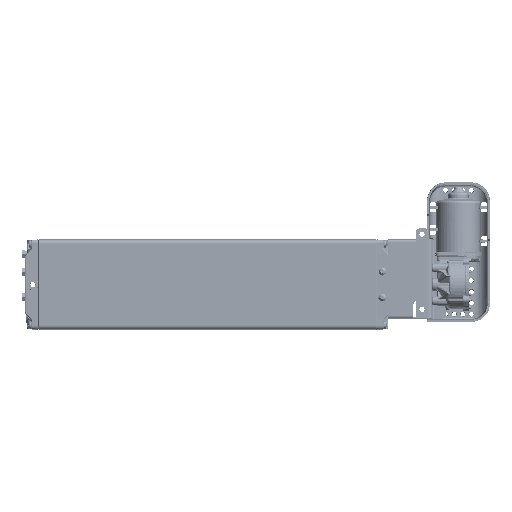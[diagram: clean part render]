
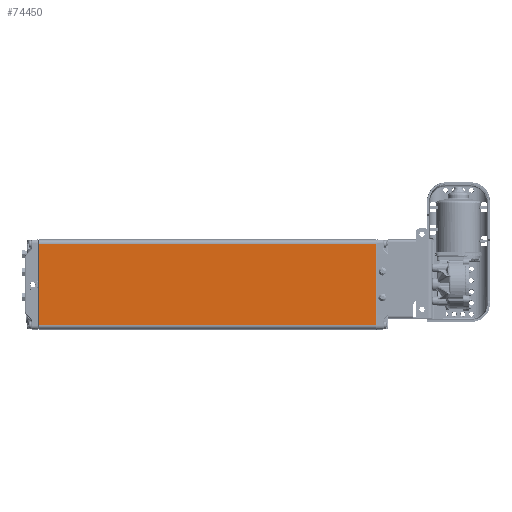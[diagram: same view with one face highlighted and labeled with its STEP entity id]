
A CAD part, top view. The second image highlights one B-rep face of the part: STEP entity #74450.
In plain terms, the highlighted planar face has unit normal (0, 0, 1).
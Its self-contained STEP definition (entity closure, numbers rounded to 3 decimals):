
#7083=LINE('',#125713,#10106);
#7084=LINE('',#125716,#10107);
#7085=LINE('',#125718,#10108);
#7086=LINE('',#125720,#10109);
#10106=VECTOR('',#86895,1000.);
#10107=VECTOR('',#86896,1000.);
#10108=VECTOR('',#86897,1000.);
#10109=VECTOR('',#86898,1000.);
#17820=ORIENTED_EDGE('',*,*,#34873,.T.);
#17821=ORIENTED_EDGE('',*,*,#34874,.T.);
#17822=ORIENTED_EDGE('',*,*,#34875,.T.);
#17823=ORIENTED_EDGE('',*,*,#34876,.T.);
#34873=EDGE_CURVE('',#43628,#43629,#7083,.F.);
#34874=EDGE_CURVE('',#43629,#43630,#7084,.T.);
#34875=EDGE_CURVE('',#43630,#43631,#7085,.T.);
#34876=EDGE_CURVE('',#43631,#43628,#7086,.F.);
#43628=VERTEX_POINT('',#125714);
#43629=VERTEX_POINT('',#125715);
#43630=VERTEX_POINT('',#125717);
#43631=VERTEX_POINT('',#125719);
#52046=EDGE_LOOP('',(#17820,#17821,#17822,#17823));
#56643=FACE_BOUND('',#52046,.T.);
#60389=PLANE('',#78952);
#74450=ADVANCED_FACE('',(#56643),#60389,.T.);
#78952=AXIS2_PLACEMENT_3D('',#125712,#86893,#86894);
#86893=DIRECTION('',(0.,0.,1.));
#86894=DIRECTION('',(1.,0.,0.));
#86895=DIRECTION('',(0.,-1.,0.));
#86896=DIRECTION('',(-1.,0.,0.));
#86897=DIRECTION('',(0.,-1.,0.));
#86898=DIRECTION('',(-1.,0.,0.));
#125712=CARTESIAN_POINT('',(60.,450.5,30.));
#125713=CARTESIAN_POINT('',(54.,450.5,30.));
#125714=CARTESIAN_POINT('',(54.,0.5,30.));
#125715=CARTESIAN_POINT('',(54.,450.,30.));
#125716=CARTESIAN_POINT('',(60.,450.,30.));
#125717=CARTESIAN_POINT('',(-54.,450.,30.));
#125718=CARTESIAN_POINT('',(-54.,450.5,30.));
#125719=CARTESIAN_POINT('',(-54.,0.5,30.));
#125720=CARTESIAN_POINT('',(54.,0.5,30.));
